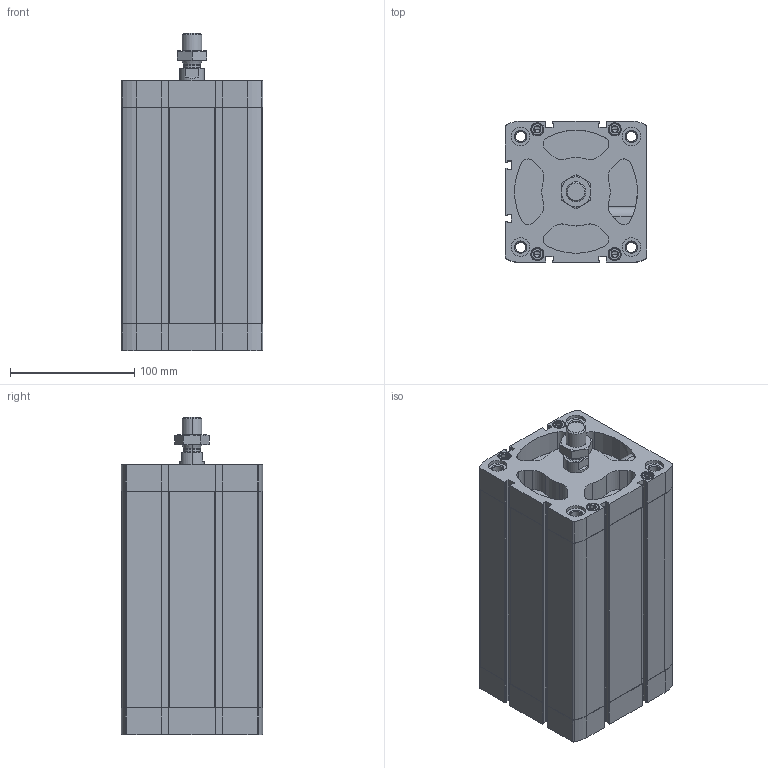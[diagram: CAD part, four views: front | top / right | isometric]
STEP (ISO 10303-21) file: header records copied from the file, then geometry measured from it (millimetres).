
FILE_DESCRIPTION (( 'STEP AP203' ), '1' );
FILE_NAME ('CCN100-150M.STEP', '2020-06-05T18:08:37', ( '' ), ( '' ), 'SwSTEP 2.0', 'SolidWorks 2019', '' );
FILE_SCHEMA (( 'CONFIG_CONTROL_DESIGN' ));
Length unit declared in the file: millimetre
Products named in the file (1): CCN100-150M
Bounding box: 113.5 x 113.5 x 254.8 mm (x, y, z)
Volume: 1403115.5 mm3; surface area: 293251 mm2
Topology: 3 solids, 3 shells, 648 faces, 1673 edges, 1068 vertices
Faces by surface type: plane 292, cylinder 272, cone 80, torus 4
Entity records: 21246 total; most frequent: CARTESIAN_POINT 4984, DIRECTION 3541, ORIENTED_EDGE 3314, EDGE_CURVE 1657, AXIS2_PLACEMENT_3D 1319, VERTEX_POINT 1068, VECTOR 903, LINE 903
